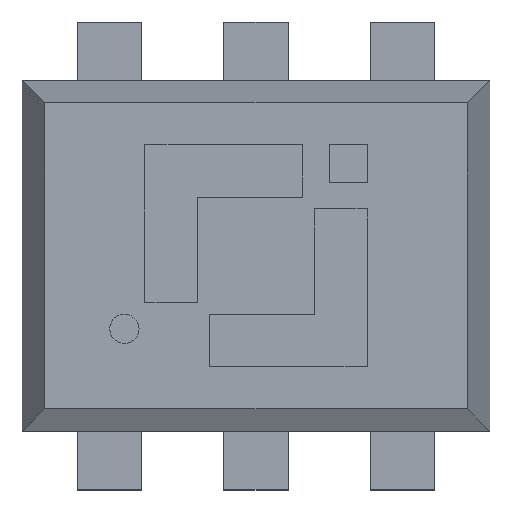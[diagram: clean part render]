
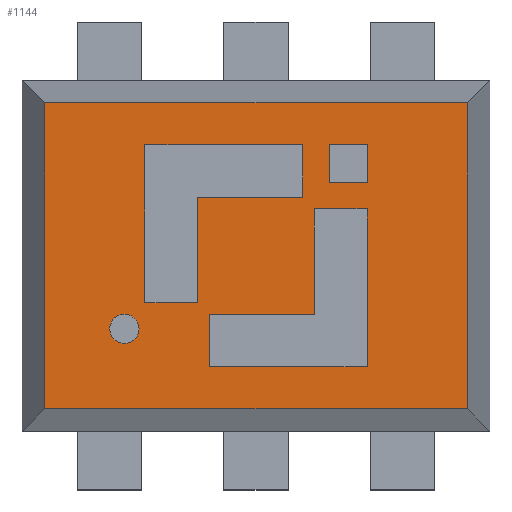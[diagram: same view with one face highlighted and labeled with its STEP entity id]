
A CAD part, top view. The second image highlights one B-rep face of the part: STEP entity #1144.
In plain terms, the highlighted planar face has unit normal (0, 0, 1).
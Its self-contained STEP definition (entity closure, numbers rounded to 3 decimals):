
#951=CARTESIAN_POINT('',(0.,0.,0.538));
#952=DIRECTION('',(0.,0.,1.));
#953=DIRECTION('',(1.,0.,0.));
#954=AXIS2_PLACEMENT_3D('',#951,#952,#953);
#955=PLANE('',#954);
#956=CARTESIAN_POINT('',(0.25,0.25,0.538));
#957=VERTEX_POINT('',#956);
#958=CARTESIAN_POINT('',(0.38,0.25,0.538));
#959=VERTEX_POINT('',#958);
#960=CARTESIAN_POINT('',(0.25,0.25,0.538));
#961=DIRECTION('',(1.,0.,-0.));
#962=VECTOR('',#961,0.13);
#963=LINE('',#960,#962);
#964=EDGE_CURVE('',#957,#959,#963,.T.);
#965=ORIENTED_EDGE('',*,*,#964,.F.);
#966=CARTESIAN_POINT('',(0.25,0.38,0.538));
#967=VERTEX_POINT('',#966);
#968=CARTESIAN_POINT('',(0.25,0.38,0.538));
#969=DIRECTION('',(0.,-1.,0.));
#970=VECTOR('',#969,0.13);
#971=LINE('',#968,#970);
#972=EDGE_CURVE('',#967,#957,#971,.T.);
#973=ORIENTED_EDGE('',*,*,#972,.F.);
#974=CARTESIAN_POINT('',(0.38,0.38,0.538));
#975=VERTEX_POINT('',#974);
#976=CARTESIAN_POINT('',(0.38,0.38,0.538));
#977=DIRECTION('',(-1.,0.,0.));
#978=VECTOR('',#977,0.13);
#979=LINE('',#976,#978);
#980=EDGE_CURVE('',#975,#967,#979,.T.);
#981=ORIENTED_EDGE('',*,*,#980,.F.);
#982=CARTESIAN_POINT('',(0.38,0.25,0.538));
#983=DIRECTION('',(0.,1.,0.));
#984=VECTOR('',#983,0.13);
#985=LINE('',#982,#984);
#986=EDGE_CURVE('',#959,#975,#985,.T.);
#987=ORIENTED_EDGE('',*,*,#986,.F.);
#988=EDGE_LOOP('',(#965,#973,#981,#987));
#989=FACE_BOUND('',#988,.T.);
#990=CARTESIAN_POINT('',(-0.435,-0.202,0.538));
#991=VERTEX_POINT('',#990);
#992=CARTESIAN_POINT('',(-0.4,-0.25,0.538));
#993=VERTEX_POINT('',#992);
#994=CARTESIAN_POINT('',(-0.45,-0.25,0.538));
#995=DIRECTION('',(0.,0.,1.));
#996=DIRECTION('',(1.,0.,-0.));
#997=AXIS2_PLACEMENT_3D('',#994,#995,#996);
#998=CIRCLE('',#997,0.05);
#999=EDGE_CURVE('',#991,#993,#998,.T.);
#1000=ORIENTED_EDGE('',*,*,#999,.F.);
#1001=CARTESIAN_POINT('',(-0.45,-0.25,0.538));
#1002=DIRECTION('',(0.,0.,1.));
#1003=DIRECTION('',(1.,0.,-0.));
#1004=AXIS2_PLACEMENT_3D('',#1001,#1002,#1003);
#1005=CIRCLE('',#1004,0.05);
#1006=EDGE_CURVE('',#993,#991,#1005,.T.);
#1007=ORIENTED_EDGE('',*,*,#1006,.F.);
#1008=EDGE_LOOP('',(#1000,#1007));
#1009=FACE_BOUND('',#1008,.T.);
#1010=CARTESIAN_POINT('',(0.723,0.523,0.538));
#1011=VERTEX_POINT('',#1010);
#1012=CARTESIAN_POINT('',(-0.723,0.523,0.538));
#1013=VERTEX_POINT('',#1012);
#1014=CARTESIAN_POINT('',(0.723,0.523,0.538));
#1015=DIRECTION('',(-1.,0.,0.));
#1016=VECTOR('',#1015,1.446);
#1017=LINE('',#1014,#1016);
#1018=EDGE_CURVE('',#1011,#1013,#1017,.T.);
#1019=ORIENTED_EDGE('',*,*,#1018,.T.);
#1020=CARTESIAN_POINT('',(-0.723,-0.523,0.538));
#1021=VERTEX_POINT('',#1020);
#1022=CARTESIAN_POINT('',(-0.723,0.523,0.538));
#1023=DIRECTION('',(0.,-1.,0.));
#1024=VECTOR('',#1023,1.046);
#1025=LINE('',#1022,#1024);
#1026=EDGE_CURVE('',#1013,#1021,#1025,.T.);
#1027=ORIENTED_EDGE('',*,*,#1026,.T.);
#1028=CARTESIAN_POINT('',(0.723,-0.523,0.538));
#1029=VERTEX_POINT('',#1028);
#1030=CARTESIAN_POINT('',(-0.723,-0.523,0.538));
#1031=DIRECTION('',(1.,0.,0.));
#1032=VECTOR('',#1031,1.446);
#1033=LINE('',#1030,#1032);
#1034=EDGE_CURVE('',#1021,#1029,#1033,.T.);
#1035=ORIENTED_EDGE('',*,*,#1034,.T.);
#1036=CARTESIAN_POINT('',(0.723,-0.523,0.538));
#1037=DIRECTION('',(-0.,1.,0.));
#1038=VECTOR('',#1037,1.046);
#1039=LINE('',#1036,#1038);
#1040=EDGE_CURVE('',#1029,#1011,#1039,.T.);
#1041=ORIENTED_EDGE('',*,*,#1040,.T.);
#1042=EDGE_LOOP('',(#1019,#1027,#1035,#1041));
#1043=FACE_BOUND('',#1042,.T.);
#1044=CARTESIAN_POINT('',(-0.38,0.38,0.538));
#1045=VERTEX_POINT('',#1044);
#1046=CARTESIAN_POINT('',(0.16,0.38,0.538));
#1047=VERTEX_POINT('',#1046);
#1048=CARTESIAN_POINT('',(-0.38,0.38,0.538));
#1049=DIRECTION('',(1.,0.,-0.));
#1050=VECTOR('',#1049,0.54);
#1051=LINE('',#1048,#1050);
#1052=EDGE_CURVE('',#1045,#1047,#1051,.T.);
#1053=ORIENTED_EDGE('',*,*,#1052,.T.);
#1054=CARTESIAN_POINT('',(0.16,0.2,0.538));
#1055=VERTEX_POINT('',#1054);
#1056=CARTESIAN_POINT('',(0.16,0.38,0.538));
#1057=DIRECTION('',(0.,-1.,0.));
#1058=VECTOR('',#1057,0.18);
#1059=LINE('',#1056,#1058);
#1060=EDGE_CURVE('',#1047,#1055,#1059,.T.);
#1061=ORIENTED_EDGE('',*,*,#1060,.T.);
#1062=CARTESIAN_POINT('',(-0.2,0.2,0.538));
#1063=VERTEX_POINT('',#1062);
#1064=CARTESIAN_POINT('',(0.16,0.2,0.538));
#1065=DIRECTION('',(-1.,0.,0.));
#1066=VECTOR('',#1065,0.36);
#1067=LINE('',#1064,#1066);
#1068=EDGE_CURVE('',#1055,#1063,#1067,.T.);
#1069=ORIENTED_EDGE('',*,*,#1068,.T.);
#1070=CARTESIAN_POINT('',(-0.2,-0.16,0.538));
#1071=VERTEX_POINT('',#1070);
#1072=CARTESIAN_POINT('',(-0.2,0.2,0.538));
#1073=DIRECTION('',(0.,-1.,0.));
#1074=VECTOR('',#1073,0.36);
#1075=LINE('',#1072,#1074);
#1076=EDGE_CURVE('',#1063,#1071,#1075,.T.);
#1077=ORIENTED_EDGE('',*,*,#1076,.T.);
#1078=CARTESIAN_POINT('',(-0.38,-0.16,0.538));
#1079=VERTEX_POINT('',#1078);
#1080=CARTESIAN_POINT('',(-0.2,-0.16,0.538));
#1081=DIRECTION('',(-1.,0.,0.));
#1082=VECTOR('',#1081,0.18);
#1083=LINE('',#1080,#1082);
#1084=EDGE_CURVE('',#1071,#1079,#1083,.T.);
#1085=ORIENTED_EDGE('',*,*,#1084,.T.);
#1086=CARTESIAN_POINT('',(-0.38,-0.16,0.538));
#1087=DIRECTION('',(0.,1.,0.));
#1088=VECTOR('',#1087,0.54);
#1089=LINE('',#1086,#1088);
#1090=EDGE_CURVE('',#1079,#1045,#1089,.T.);
#1091=ORIENTED_EDGE('',*,*,#1090,.T.);
#1092=EDGE_LOOP('',(#1053,#1061,#1069,#1077,#1085,#1091));
#1093=FACE_BOUND('',#1092,.T.);
#1094=CARTESIAN_POINT('',(0.2,0.16,0.538));
#1095=VERTEX_POINT('',#1094);
#1096=CARTESIAN_POINT('',(0.38,0.16,0.538));
#1097=VERTEX_POINT('',#1096);
#1098=CARTESIAN_POINT('',(0.2,0.16,0.538));
#1099=DIRECTION('',(1.,0.,0.));
#1100=VECTOR('',#1099,0.18);
#1101=LINE('',#1098,#1100);
#1102=EDGE_CURVE('',#1095,#1097,#1101,.T.);
#1103=ORIENTED_EDGE('',*,*,#1102,.T.);
#1104=CARTESIAN_POINT('',(0.38,-0.38,0.538));
#1105=VERTEX_POINT('',#1104);
#1106=CARTESIAN_POINT('',(0.38,0.16,0.538));
#1107=DIRECTION('',(0.,-1.,0.));
#1108=VECTOR('',#1107,0.54);
#1109=LINE('',#1106,#1108);
#1110=EDGE_CURVE('',#1097,#1105,#1109,.T.);
#1111=ORIENTED_EDGE('',*,*,#1110,.T.);
#1112=CARTESIAN_POINT('',(-0.16,-0.38,0.538));
#1113=VERTEX_POINT('',#1112);
#1114=CARTESIAN_POINT('',(0.38,-0.38,0.538));
#1115=DIRECTION('',(-1.,0.,0.));
#1116=VECTOR('',#1115,0.54);
#1117=LINE('',#1114,#1116);
#1118=EDGE_CURVE('',#1105,#1113,#1117,.T.);
#1119=ORIENTED_EDGE('',*,*,#1118,.T.);
#1120=CARTESIAN_POINT('',(-0.16,-0.2,0.538));
#1121=VERTEX_POINT('',#1120);
#1122=CARTESIAN_POINT('',(-0.16,-0.38,0.538));
#1123=DIRECTION('',(-0.,1.,0.));
#1124=VECTOR('',#1123,0.18);
#1125=LINE('',#1122,#1124);
#1126=EDGE_CURVE('',#1113,#1121,#1125,.T.);
#1127=ORIENTED_EDGE('',*,*,#1126,.T.);
#1128=CARTESIAN_POINT('',(0.2,-0.2,0.538));
#1129=VERTEX_POINT('',#1128);
#1130=CARTESIAN_POINT('',(-0.16,-0.2,0.538));
#1131=DIRECTION('',(1.,0.,-0.));
#1132=VECTOR('',#1131,0.36);
#1133=LINE('',#1130,#1132);
#1134=EDGE_CURVE('',#1121,#1129,#1133,.T.);
#1135=ORIENTED_EDGE('',*,*,#1134,.T.);
#1136=CARTESIAN_POINT('',(0.2,-0.2,0.538));
#1137=DIRECTION('',(0.,1.,0.));
#1138=VECTOR('',#1137,0.36);
#1139=LINE('',#1136,#1138);
#1140=EDGE_CURVE('',#1129,#1095,#1139,.T.);
#1141=ORIENTED_EDGE('',*,*,#1140,.T.);
#1142=EDGE_LOOP('',(#1103,#1111,#1119,#1127,#1135,#1141));
#1143=FACE_BOUND('',#1142,.T.);
#1144=ADVANCED_FACE('',(#989,#1009,#1043,#1093,#1143),#955,.T.);
